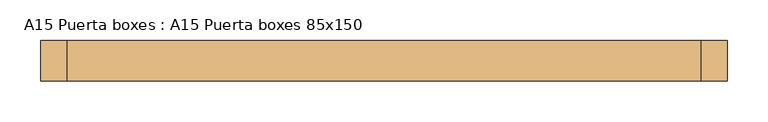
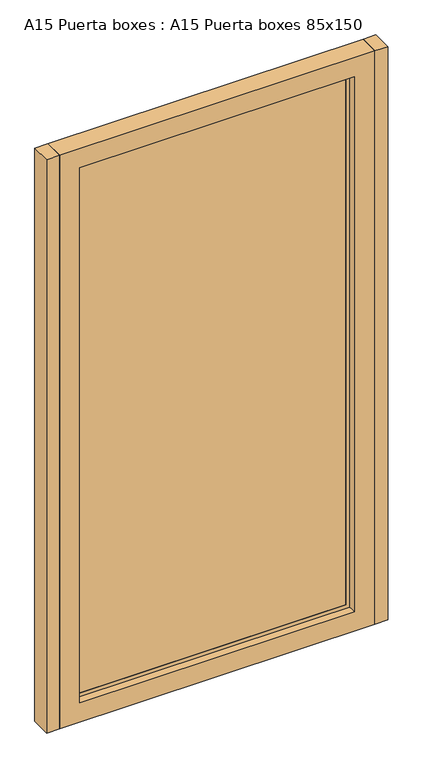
"""IFC4 building model written with IfcOpenShell, lengths in millimetres: door geometry, A15 Puerta boxes : A15 Puerta boxes 85x150."""

from ifc_helpers import new_model, si_unit, frame, origin, origin_with_axes, place, context, project, spatial, polyline, outline, extrude, source, transform, mapped, element, save


def a15_puerta_boxes_a15_puerta_boxes_85x150_d28bf8b2(model_context):
    return source(origin(), model_context, "Body", "SweptSolid", [
        extrude(outline(polyline([(422.5, -12.5), (390.5, -12.5), (390.5, 37.5), (422.5, 37.5), (422.5, -12.5)])), origin_with_axes(), (0.0, 0.0, 1.0), 1500.0),
        extrude(outline(polyline([(-390.5, -12.5), (-422.5, -12.5), (-422.5, 37.5), (-390.5, 37.5), (-390.5, -12.5)])), origin_with_axes(), (0.0, 0.0, 1.0), 1500.0),
        extrude(outline(polyline([(1500.0, -390.5), (0.0, -390.5), (0.0, 390.5), (1500.0, 390.5), (1500.0, -390.5)]), holes=[polyline([(1450.0, -340.5), (1450.0, 340.5), (50.0, 340.5), (50.0, -340.5), (1450.0, -340.5)])]), frame((0.0, -12.5, 0.0), z_axis=(0.0, 1.0, 0.0), x_axis=(0.0, 0.0, 1.0)), (0.0, 0.0, 1.0), 50.0),
        extrude(outline(polyline([(1450.0, -340.5), (50.0, -340.5), (50.0, 340.5), (1450.0, 340.5), (1450.0, -340.5)]), holes=[polyline([(1440.0, -330.5), (1440.0, 330.5), (60.0, 330.5), (60.0, -330.5), (1440.0, -330.5)])]), frame((0.0, 7.5, 0.0), z_axis=(0.0, 1.0, 0.0), x_axis=(0.0, 0.0, 1.0)), (0.0, 0.0, 1.0), 10.0),
        extrude(outline(polyline([(330.5, 7.5), (-330.5, 7.5), (-330.5, 17.5), (330.5, 17.5), (330.5, 7.5)])), frame((0.0, 0.0, 60.0), z_axis=(0.0, 0.0, 1.0), x_axis=(1.0, 0.0, 0.0)), (0.0, 0.0, 1.0), 1380.0),
    ])


if __name__ == "__main__":
    model = new_model("IFC4")
    model_context = context("Model", 3, world=origin())
    ifc_project = project(units=[si_unit("LENGTHUNIT", "METRE", prefix="MILLI")], contexts=[model_context])
    site = spatial("IfcSite", under=ifc_project)
    building = spatial("IfcBuilding", under=site)
    placement = place(None, origin())
    a15_puerta_boxes_a15_puerta_boxes_85x150_shape = a15_puerta_boxes_a15_puerta_boxes_85x150_d28bf8b2(model_context)
    element("IfcDoor", 1, ObjectType="A15 Puerta boxes : A15 Puerta boxes 85x150", at=placement, inside=building, context=model_context, shape_type="MappedRepresentation", body=[
        mapped(a15_puerta_boxes_a15_puerta_boxes_85x150_shape, transform((0.0, 0.0, 0.0), x_axis=(1.0, 0.0, 0.0), y_axis=(0.0, 1.0, 0.0), z_axis=(0.0, 0.0, 1.0))),
    ])
    save(model, "model.ifc")
